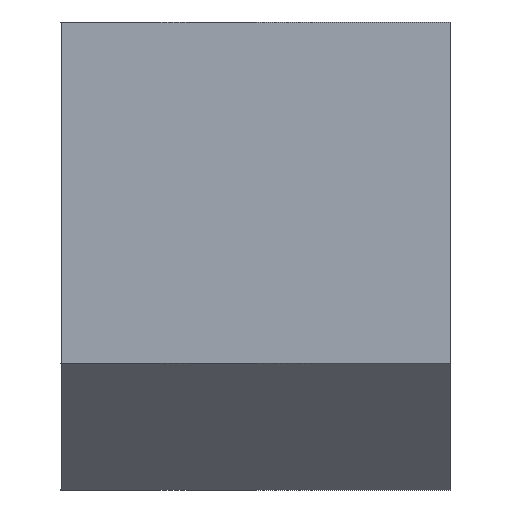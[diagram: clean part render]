
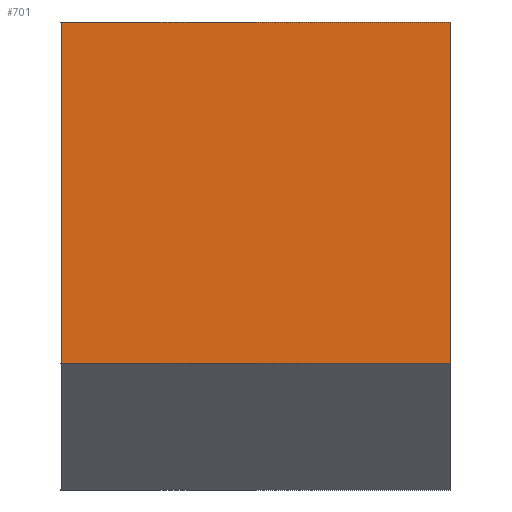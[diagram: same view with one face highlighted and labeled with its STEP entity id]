
A CAD part, front view. The second image highlights one B-rep face of the part: STEP entity #701.
In plain terms, the highlighted planar face has unit normal (0, -1, 0).
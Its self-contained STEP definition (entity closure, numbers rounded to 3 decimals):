
#42=PLANE('',#807);
#83=FACE_OUTER_BOUND('',#136,.T.);
#136=EDGE_LOOP('',(#626,#627,#628,#629));
#145=LINE('',#1056,#196);
#160=LINE('',#1136,#211);
#173=LINE('',#1196,#224);
#188=LINE('',#1234,#239);
#196=VECTOR('',#828,10.);
#211=VECTOR('',#919,10.);
#224=VECTOR('',#986,10.);
#239=VECTOR('',#1025,10.);
#294=VERTEX_POINT('',#1053);
#295=VERTEX_POINT('',#1055);
#322=VERTEX_POINT('',#1134);
#342=VERTEX_POINT('',#1194);
#362=EDGE_CURVE('',#294,#295,#145,.T.);
#402=EDGE_CURVE('',#322,#294,#160,.T.);
#432=EDGE_CURVE('',#322,#342,#173,.T.);
#447=EDGE_CURVE('',#342,#295,#188,.T.);
#626=ORIENTED_EDGE('',*,*,#432,.T.);
#627=ORIENTED_EDGE('',*,*,#447,.T.);
#628=ORIENTED_EDGE('',*,*,#362,.F.);
#629=ORIENTED_EDGE('',*,*,#402,.F.);
#701=ADVANCED_FACE('',(#83),#42,.T.);
#807=AXIS2_PLACEMENT_3D('',#1235,#1026,#1027);
#828=DIRECTION('',(0.,0.,-1.));
#919=DIRECTION('',(1.,0.,0.));
#986=DIRECTION('',(0.,0.,-1.));
#1025=DIRECTION('',(1.,0.,0.));
#1026=DIRECTION('center_axis',(0.,-1.,0.));
#1027=DIRECTION('ref_axis',(0.,0.,-1.));
#1053=CARTESIAN_POINT('',(40.,-33.,48.));
#1055=CARTESIAN_POINT('',(40.,-33.,13.));
#1056=CARTESIAN_POINT('',(40.,-33.,48.));
#1134=CARTESIAN_POINT('',(0.,-33.,48.));
#1136=CARTESIAN_POINT('',(0.,-33.,48.));
#1194=CARTESIAN_POINT('',(0.,-33.,13.));
#1196=CARTESIAN_POINT('',(0.,-33.,48.));
#1234=CARTESIAN_POINT('',(0.,-33.,13.));
#1235=CARTESIAN_POINT('Origin',(0.,-33.,48.));
